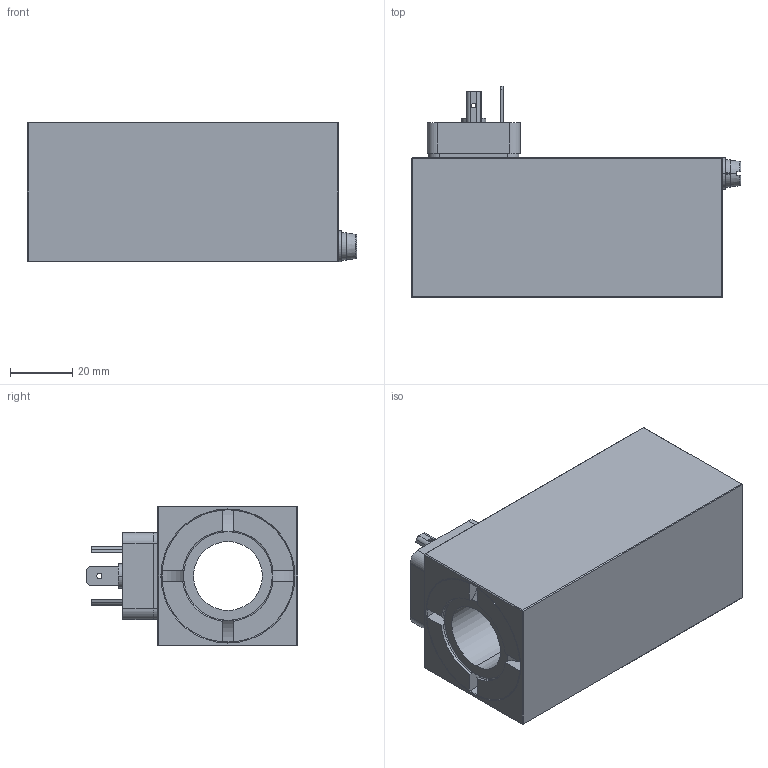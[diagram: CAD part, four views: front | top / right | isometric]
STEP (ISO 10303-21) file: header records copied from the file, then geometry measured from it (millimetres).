
FILE_DESCRIPTION (( 'STEP AP214' ), '1' );
FILE_NAME ('MDZ45.STEP', '2019-06-26T08:38:54', ( '' ), ( '' ), 'SwSTEP 2.0', 'SolidWorks 2018', '' );
FILE_SCHEMA (( 'AUTOMOTIVE_DESIGN' ));
Length unit declared in the file: millimetre
Products named in the file (1): MDZ45
Bounding box: 105.9 x 68.1 x 45 mm (x, y, z)
Volume: 170752.1 mm3; surface area: 35487.4 mm2
Topology: 5 solids, 9 shells, 434 faces, 1108 edges, 716 vertices
Faces by surface type: plane 264, cylinder 142, cone 18, torus 8, bspline 2
Entity records: 18038 total; most frequent: CARTESIAN_POINT 2730, DIRECTION 2229, ORIENTED_EDGE 2212, EDGE_CURVE 1106, AXIS2_PLACEMENT_3D 757, VERTEX_POINT 716, LINE 715, VECTOR 715
